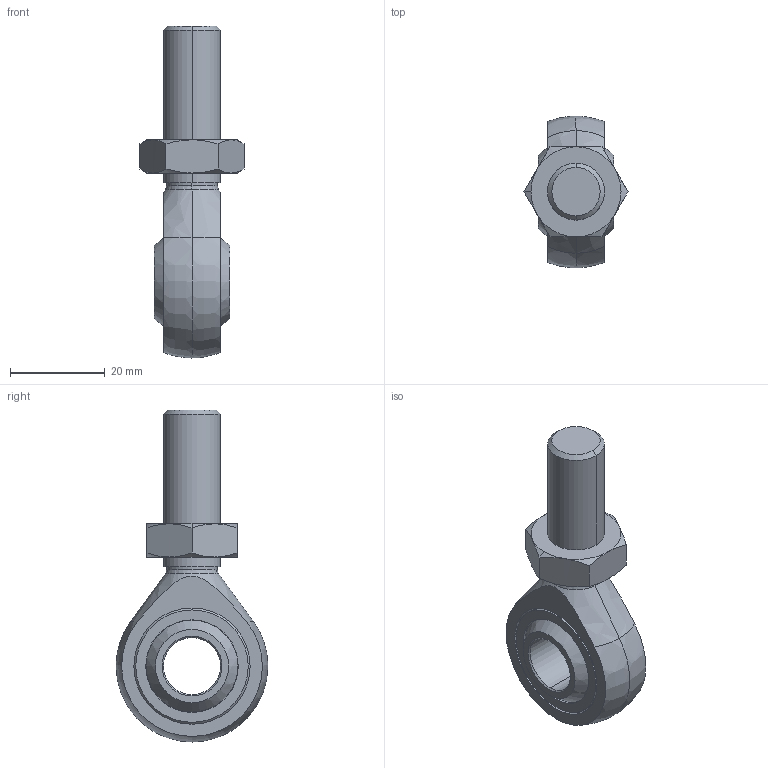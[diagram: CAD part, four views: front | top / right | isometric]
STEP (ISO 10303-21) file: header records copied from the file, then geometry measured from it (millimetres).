
FILE_DESCRIPTION((''),'2;1');
FILE_NAME('KNUCKLE_EYE_S9M_2KN-10KN','2018-03-14T',('esche'),(''),'CREO PARAMETRIC BY PTC INC, 2017170','CREO PARAMETRIC BY PTC INC, 2017170','');
FILE_SCHEMA(('CONFIG_CONTROL_DESIGN'));
Length unit declared in the file: millimetre
Products named in the file (1): KNUCKLE_EYE_S9M_2KN-10KN
Bounding box: 21.94 x 32 x 70 mm (x, y, z)
Volume: 14246.7 mm3; surface area: 6732.2 mm2
Topology: 1 solids, 3 shells, 88 faces, 229 edges, 150 vertices
Faces by surface type: bspline 88
Entity records: 4615 total; most frequent: CARTESIAN_POINT 2577, ORIENTED_EDGE 450, DIRECTION 324, EDGE_CURVE 225, VERTEX_POINT 150, AXIS2_PLACEMENT_3D 125, CIRCLE 125, EDGE_LOOP 101
